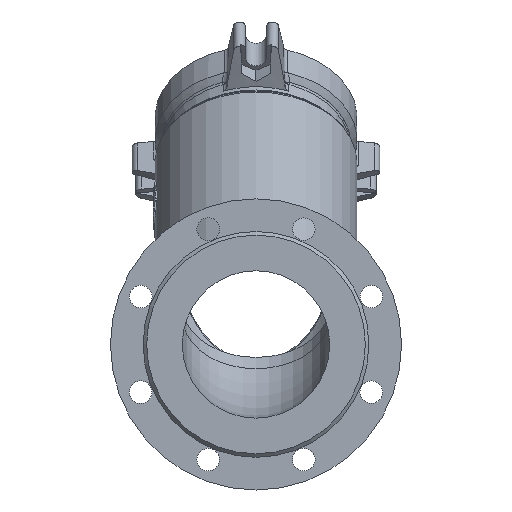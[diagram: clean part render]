
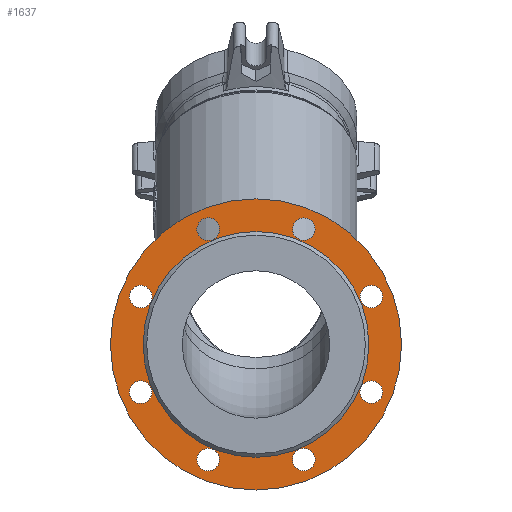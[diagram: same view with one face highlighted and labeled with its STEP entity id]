
A CAD part, front view. The second image highlights one B-rep face of the part: STEP entity #1637.
In plain terms, the highlighted planar face has unit normal (0, -1, 0).
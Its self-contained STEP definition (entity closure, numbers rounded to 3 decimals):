
#1637=ADVANCED_FACE('',(#5422,#5424,#5426,#5428,#5430,#5432,#5434,#5436,#5438,#5440),
#5442,.T.);
#5422=FACE_BOUND('',#5423,.T.);
#5423=EDGE_LOOP('',(#7011));
#5424=FACE_BOUND('',#5425,.T.);
#5425=EDGE_LOOP('',(#7012));
#5426=FACE_BOUND('',#5427,.T.);
#5427=EDGE_LOOP('',(#7013));
#5428=FACE_BOUND('',#5429,.T.);
#5429=EDGE_LOOP('',(#7014));
#5430=FACE_BOUND('',#5431,.T.);
#5431=EDGE_LOOP('',(#7015));
#5432=FACE_BOUND('',#5433,.T.);
#5433=EDGE_LOOP('',(#7016));
#5434=FACE_BOUND('',#5435,.T.);
#5435=EDGE_LOOP('',(#7017));
#5436=FACE_BOUND('',#5437,.T.);
#5437=EDGE_LOOP('',(#7018));
#5438=FACE_BOUND('',#5439,.T.);
#5439=EDGE_LOOP('',(#7019));
#5440=FACE_BOUND('',#5441,.T.);
#5441=EDGE_LOOP('',(#7020));
#5442=PLANE('',#5443);
#5443=AXIS2_PLACEMENT_3D('',#5444,#5445,#5446);
#5444=CARTESIAN_POINT('',(0.,3.,0.));
#5445=DIRECTION('',(0.,-1.,0.));
#5446=DIRECTION('',(1.,0.,0.));
#7011=ORIENTED_EDGE('',*,*,#7513,.F.);
#7012=ORIENTED_EDGE('',*,*,#7514,.T.);
#7013=ORIENTED_EDGE('',*,*,#7515,.T.);
#7014=ORIENTED_EDGE('',*,*,#7516,.T.);
#7015=ORIENTED_EDGE('',*,*,#7517,.T.);
#7016=ORIENTED_EDGE('',*,*,#7518,.T.);
#7017=ORIENTED_EDGE('',*,*,#7519,.T.);
#7018=ORIENTED_EDGE('',*,*,#7520,.T.);
#7019=ORIENTED_EDGE('',*,*,#7523,.T.);
#7020=ORIENTED_EDGE('',*,*,#7521,.T.);
#7513=EDGE_CURVE('',#8290,#8290,#8291,.T.);
#7514=EDGE_CURVE('',#8292,#8292,#8293,.F.);
#7515=EDGE_CURVE('',#8294,#8294,#8295,.F.);
#7516=EDGE_CURVE('',#8296,#8296,#8297,.F.);
#7517=EDGE_CURVE('',#8298,#8298,#8299,.F.);
#7518=EDGE_CURVE('',#8300,#8300,#8301,.F.);
#7519=EDGE_CURVE('',#8302,#8302,#8303,.F.);
#7520=EDGE_CURVE('',#8304,#8304,#8305,.F.);
#7521=EDGE_CURVE('',#8306,#8306,#8307,.F.);
#7523=EDGE_CURVE('',#8310,#8310,#8311,.T.);
#8290=VERTEX_POINT('',#13899);
#8291=CIRCLE('',#13900,122.5);
#8292=VERTEX_POINT('',#13904);
#8293=CIRCLE('',#13905,9.5);
#8294=VERTEX_POINT('',#13909);
#8295=CIRCLE('',#13910,9.5);
#8296=VERTEX_POINT('',#13914);
#8297=CIRCLE('',#13915,9.5);
#8298=VERTEX_POINT('',#13919);
#8299=CIRCLE('',#13920,9.5);
#8300=VERTEX_POINT('',#13924);
#8301=CIRCLE('',#13925,9.5);
#8302=VERTEX_POINT('',#13929);
#8303=CIRCLE('',#13930,9.5);
#8304=VERTEX_POINT('',#13934);
#8305=CIRCLE('',#13935,9.5);
#8306=VERTEX_POINT('',#13939);
#8307=CIRCLE('',#13940,9.5);
#8310=VERTEX_POINT('',#13949);
#8311=CIRCLE('',#13950,95.);
#13899=CARTESIAN_POINT('',(122.5,3.,0.));
#13900=AXIS2_PLACEMENT_3D('',#13901,#13902,#13903);
#13901=CARTESIAN_POINT('',(0.,3.,0.));
#13902=DIRECTION('',(0.,1.,0.));
#13903=DIRECTION('',(1.,0.,0.));
#13904=CARTESIAN_POINT('',(-103.725,3.,-33.464));
#13905=AXIS2_PLACEMENT_3D('',#13906,#13907,#13908);
#13906=CARTESIAN_POINT('',(-97.007,3.,-40.182));
#13907=DIRECTION('',(0.,-1.,0.));
#13908=DIRECTION('',(-0.707,0.,0.707));
#13909=CARTESIAN_POINT('',(-97.007,3.,49.682));
#13910=AXIS2_PLACEMENT_3D('',#13911,#13912,#13913);
#13911=CARTESIAN_POINT('',(-97.007,3.,40.182));
#13912=DIRECTION('',(0.,-1.,0.));
#13913=DIRECTION('',(0.,0.,1.));
#13914=CARTESIAN_POINT('',(-33.464,3.,103.725));
#13915=AXIS2_PLACEMENT_3D('',#13916,#13917,#13918);
#13916=CARTESIAN_POINT('',(-40.182,3.,97.007));
#13917=DIRECTION('',(0.,-1.,0.));
#13918=DIRECTION('',(0.707,0.,0.707));
#13919=CARTESIAN_POINT('',(49.682,3.,97.007));
#13920=AXIS2_PLACEMENT_3D('',#13921,#13922,#13923);
#13921=CARTESIAN_POINT('',(40.182,3.,97.007));
#13922=DIRECTION('',(0.,-1.,0.));
#13923=DIRECTION('',(1.,0.,0.));
#13924=CARTESIAN_POINT('',(103.725,3.,33.464));
#13925=AXIS2_PLACEMENT_3D('',#13926,#13927,#13928);
#13926=CARTESIAN_POINT('',(97.007,3.,40.182));
#13927=DIRECTION('',(0.,-1.,0.));
#13928=DIRECTION('',(0.707,0.,-0.707));
#13929=CARTESIAN_POINT('',(97.007,3.,-49.682));
#13930=AXIS2_PLACEMENT_3D('',#13931,#13932,#13933);
#13931=CARTESIAN_POINT('',(97.007,3.,-40.182));
#13932=DIRECTION('',(0.,-1.,0.));
#13933=DIRECTION('',(0.,0.,-1.));
#13934=CARTESIAN_POINT('',(33.464,3.,-103.725));
#13935=AXIS2_PLACEMENT_3D('',#13936,#13937,#13938);
#13936=CARTESIAN_POINT('',(40.182,3.,-97.007));
#13937=DIRECTION('',(0.,-1.,0.));
#13938=DIRECTION('',(-0.707,0.,-0.707));
#13939=CARTESIAN_POINT('',(-49.682,3.,-97.007));
#13940=AXIS2_PLACEMENT_3D('',#13941,#13942,#13943);
#13941=CARTESIAN_POINT('',(-40.182,3.,-97.007));
#13942=DIRECTION('',(0.,-1.,0.));
#13943=DIRECTION('',(-1.,0.,0.));
#13949=CARTESIAN_POINT('',(95.,3.,0.));
#13950=AXIS2_PLACEMENT_3D('',#13951,#13952,#13953);
#13951=CARTESIAN_POINT('',(0.,3.,0.));
#13952=DIRECTION('',(0.,1.,0.));
#13953=DIRECTION('',(1.,0.,0.));
